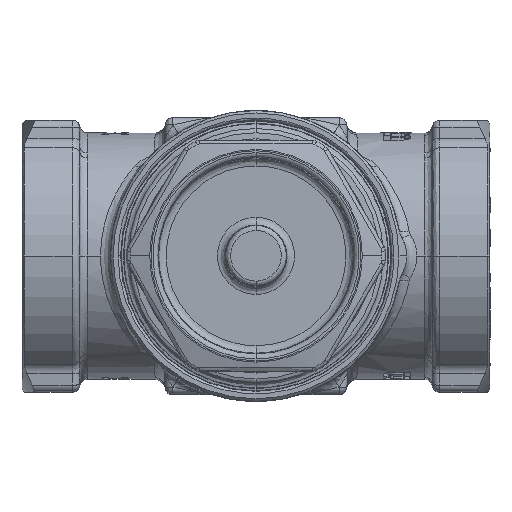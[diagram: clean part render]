
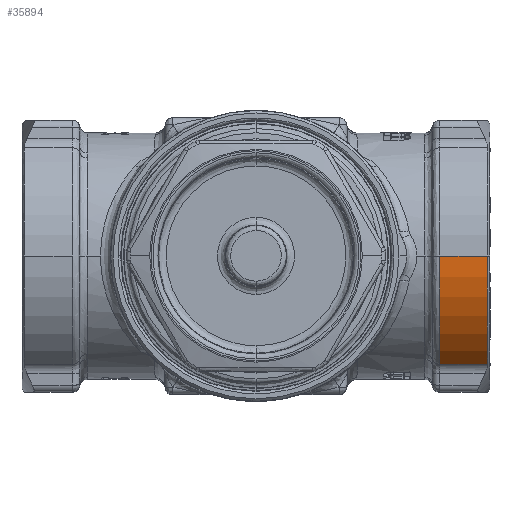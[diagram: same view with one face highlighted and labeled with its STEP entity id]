
A CAD part, top view. The second image highlights one B-rep face of the part: STEP entity #35894.
In plain terms, the highlighted cylindrical face has radius 27 mm (diameter 54 mm), a partial arc.
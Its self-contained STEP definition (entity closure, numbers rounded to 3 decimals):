
#1056 = DIRECTION ( 'NONE',  ( 1., 0., 0. ) ) ;
#3054 = DIRECTION ( 'NONE',  ( 0., 0., 1. ) ) ;
#3433 = CARTESIAN_POINT ( 'NONE',  ( 46., 0., 0. ) ) ;
#5724 = FACE_OUTER_BOUND ( 'NONE', #23867, .T. ) ;
#6123 = CARTESIAN_POINT ( 'NONE',  ( 46., -21.521, 16.305 ) ) ;
#11670 = LINE ( 'NONE', #27125, #39814 ) ;
#12732 = ORIENTED_EDGE ( 'NONE', *, *, #17585, .T. ) ;
#15037 = DIRECTION ( 'NONE',  ( 0., 0., 1. ) ) ;
#15228 = VERTEX_POINT ( 'NONE', #29550 ) ;
#16659 = EDGE_CURVE ( 'NONE', #25668, #15228, #49007, .T. ) ;
#17585 = EDGE_CURVE ( 'NONE', #20274, #25668, #43267, .T. ) ;
#18529 = ORIENTED_EDGE ( 'NONE', *, *, #26030, .F. ) ;
#20274 = VERTEX_POINT ( 'NONE', #29179 ) ;
#23265 = CARTESIAN_POINT ( 'NONE',  ( 36.5, 0., 27. ) ) ;
#23867 = EDGE_LOOP ( 'NONE', ( #39241, #41618, #18529, #12732 ) ) ;
#24035 = CARTESIAN_POINT ( 'NONE',  ( 48., -21.521, 16.305 ) ) ;
#24653 = VECTOR ( 'NONE', #1056, 1000. ) ;
#25668 = VERTEX_POINT ( 'NONE', #6123 ) ;
#25790 = CARTESIAN_POINT ( 'NONE',  ( 36.5, 0., 0. ) ) ;
#25859 = VERTEX_POINT ( 'NONE', #23265 ) ;
#26030 = EDGE_CURVE ( 'NONE', #20274, #25859, #44707, .T. ) ;
#27125 = CARTESIAN_POINT ( 'NONE',  ( 48., 0., 27. ) ) ;
#29179 = CARTESIAN_POINT ( 'NONE',  ( 36.5, -21.521, 16.305 ) ) ;
#29550 = CARTESIAN_POINT ( 'NONE',  ( 46., 0., 27. ) ) ;
#29816 = DIRECTION ( 'NONE',  ( -1., 0., 0. ) ) ;
#34178 = AXIS2_PLACEMENT_3D ( 'NONE', #25790, #29816, #3054 ) ;
#35196 = AXIS2_PLACEMENT_3D ( 'NONE', #3433, #49769, #15037 ) ;
#35814 = DIRECTION ( 'NONE',  ( -1., 0., 0. ) ) ;
#35894 = ADVANCED_FACE ( 'NONE', ( #5724 ), #44179, .T. ) ;
#39241 = ORIENTED_EDGE ( 'NONE', *, *, #16659, .T. ) ;
#39814 = VECTOR ( 'NONE', #42552, 1000. ) ;
#40352 = CARTESIAN_POINT ( 'NONE',  ( 48., 0., 0. ) ) ;
#41618 = ORIENTED_EDGE ( 'NONE', *, *, #47414, .T. ) ;
#42552 = DIRECTION ( 'NONE',  ( -1., 0., 0. ) ) ;
#43267 = LINE ( 'NONE', #24035, #24653 ) ;
#44179 = CYLINDRICAL_SURFACE ( 'NONE', #47963, 27. ) ;
#44707 = CIRCLE ( 'NONE', #34178, 27. ) ;
#47259 = DIRECTION ( 'NONE',  ( 0., 0., 1. ) ) ;
#47414 = EDGE_CURVE ( 'NONE', #15228, #25859, #11670, .T. ) ;
#47963 = AXIS2_PLACEMENT_3D ( 'NONE', #40352, #35814, #47259 ) ;
#49007 = CIRCLE ( 'NONE', #35196, 27. ) ;
#49769 = DIRECTION ( 'NONE',  ( -1., 0., 0. ) ) ;
